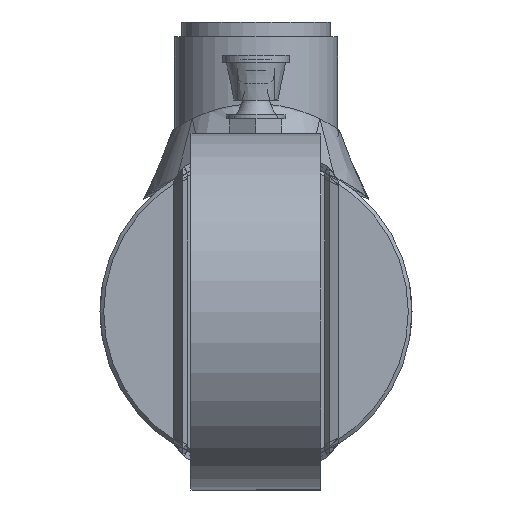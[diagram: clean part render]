
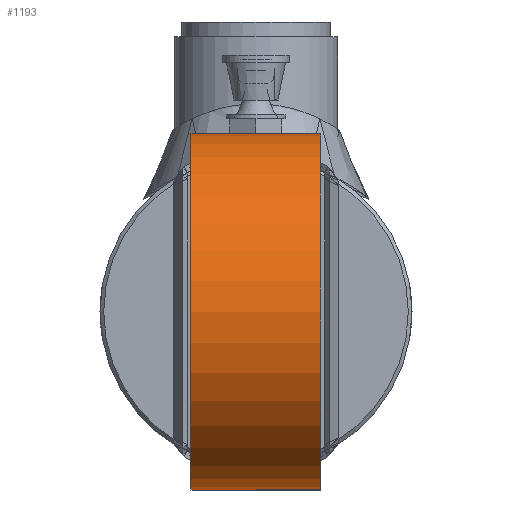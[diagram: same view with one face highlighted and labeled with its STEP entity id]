
A CAD part, left-side view. The second image highlights one B-rep face of the part: STEP entity #1193.
In plain terms, the highlighted cylindrical face has radius 24 mm (diameter 48 mm), a partial arc.
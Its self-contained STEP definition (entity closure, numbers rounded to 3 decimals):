
#1193 = ADVANCED_FACE( '', ( #2302 ), #2303, .T. );
#2302 = FACE_OUTER_BOUND( '', #4402, .T. );
#2303 = CYLINDRICAL_SURFACE( '', #4403, 24. );
#4402 = EDGE_LOOP( '', ( #10621, #10622, #10623, #10624 ) );
#4403 = AXIS2_PLACEMENT_3D( '', #10625, #10626, #10627 );
#10621 = ORIENTED_EDGE( '', *, *, #12792, .T. );
#10622 = ORIENTED_EDGE( '', *, *, #12793, .F. );
#10623 = ORIENTED_EDGE( '', *, *, #12794, .F. );
#10624 = ORIENTED_EDGE( '', *, *, #12795, .T. );
#10625 = CARTESIAN_POINT( '', ( 35., -8.75, 0. ) );
#10626 = DIRECTION( '', ( 0., -1., 0. ) );
#10627 = DIRECTION( '', ( 0., 0., 1. ) );
#12792 = EDGE_CURVE( '', #14172, #14173, #14174, .T. );
#12793 = EDGE_CURVE( '', #14175, #14173, #14176, .T. );
#12794 = EDGE_CURVE( '', #14177, #14175, #14178, .T. );
#12795 = EDGE_CURVE( '', #14177, #14172, #14179, .T. );
#14172 = VERTEX_POINT( '', #16157 );
#14173 = VERTEX_POINT( '', #16158 );
#14174 = CIRCLE( '', #16159, 24. );
#14175 = VERTEX_POINT( '', #16160 );
#14176 = LINE( '', #16161, #16162 );
#14177 = VERTEX_POINT( '', #16163 );
#14178 = CIRCLE( '', #16164, 24. );
#14179 = LINE( '', #16165, #16166 );
#16157 = CARTESIAN_POINT( '', ( 35., 8.75, -24. ) );
#16158 = CARTESIAN_POINT( '', ( 35., 8.75, 24. ) );
#16159 = AXIS2_PLACEMENT_3D( '', #19292, #19293, #19294 );
#16160 = CARTESIAN_POINT( '', ( 35., -8.75, 24. ) );
#16161 = CARTESIAN_POINT( '', ( 35., -8.75, 24. ) );
#16162 = VECTOR( '', #19295, 1000. );
#16163 = CARTESIAN_POINT( '', ( 35., -8.75, -24. ) );
#16164 = AXIS2_PLACEMENT_3D( '', #19296, #19297, #19298 );
#16165 = CARTESIAN_POINT( '', ( 35., -8.75, -24. ) );
#16166 = VECTOR( '', #19299, 1000. );
#19292 = CARTESIAN_POINT( '', ( 35., 8.75, 0. ) );
#19293 = DIRECTION( '', ( 0., -1., 0. ) );
#19294 = DIRECTION( '', ( -1., 0., 0. ) );
#19295 = DIRECTION( '', ( 0., 1., 0. ) );
#19296 = CARTESIAN_POINT( '', ( 35., -8.75, 0. ) );
#19297 = DIRECTION( '', ( 0., -1., 0. ) );
#19298 = DIRECTION( '', ( -1., 0., 0. ) );
#19299 = DIRECTION( '', ( 0., 1., 0. ) );
